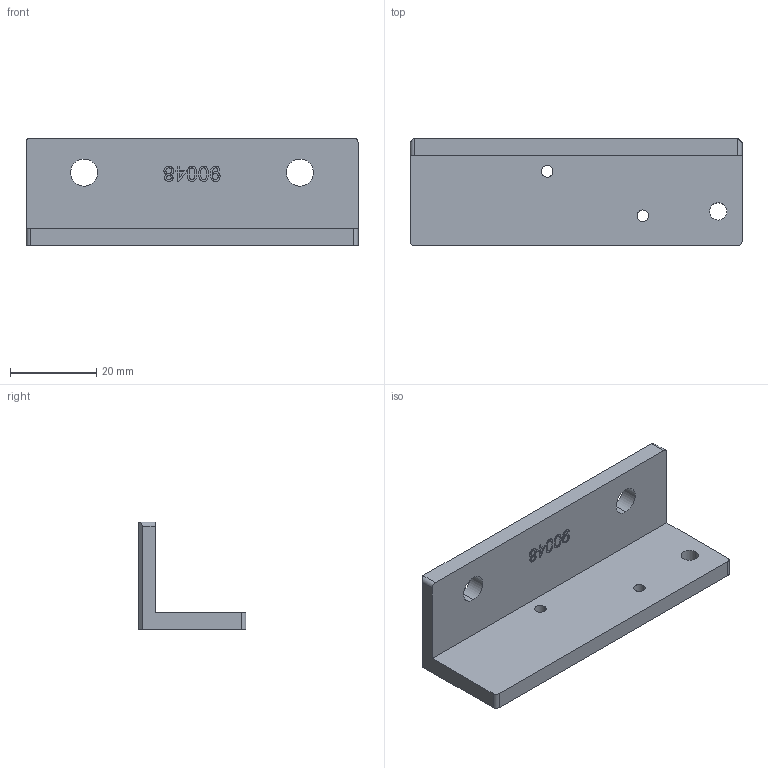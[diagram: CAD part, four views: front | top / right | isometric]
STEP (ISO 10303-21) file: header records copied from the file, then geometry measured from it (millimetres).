
FILE_DESCRIPTION (( 'STEP AP214' ), '1' );
FILE_NAME ('10131V000_Niederhalter_Mikroschalter_Index_3.STEP', '2014-11-19T12:21:36', ( 'Admin' ), ( '' ), 'SwSTEP 2.0', 'SolidWorks 2014', '' );
FILE_SCHEMA (( 'AUTOMOTIVE_DESIGN' ));
Length unit declared in the file: millimetre
Products named in the file (1): 10131V000_Niederhalter_Mikroschalter_Index_3
Bounding box: 77 x 25 x 25 mm (x, y, z)
Volume: 13792.6 mm3; surface area: 8141.1 mm2
Topology: 1 solids, 1 shells, 99 faces, 256 edges, 170 vertices
Faces by surface type: bspline 49, plane 36, cylinder 14
Entity records: 6020 total; most frequent: CARTESIAN_POINT 3861, ORIENTED_EDGE 512, DIRECTION 284, EDGE_CURVE 256, VERTEX_POINT 170, LINE 130, VECTOR 130, EDGE_LOOP 120
